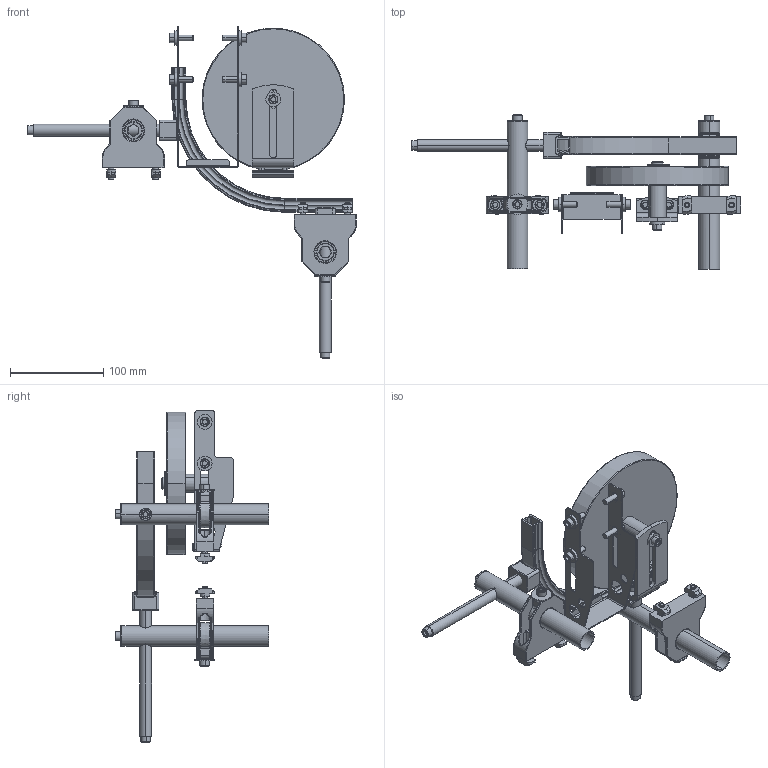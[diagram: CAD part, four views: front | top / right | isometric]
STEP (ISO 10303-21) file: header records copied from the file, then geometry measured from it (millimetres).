
FILE_DESCRIPTION (( 'STEP AP203' ), '1' );
FILE_NAME ('206524-02.STEP', '2018-04-12T18:34:06', ( '' ), ( '' ), 'SwSTEP 2.0', 'SolidWorks 2017', '' );
FILE_SCHEMA (( 'CONFIG_CONTROL_DESIGN' ));
Length unit declared in the file: inch
Products named in the file (28): 206382_206382_DRAFTS; 206385_0.875OD; 206380; 200830M; 234005M; 234007M; 206524-02; 9206XXM_9206150M; 9206XXM_920620M; 911-709_91090A107; 234003M; 9206XXM_920616M; 207138-WW_2; 206386; 9206XXM_920614M; 206397_206397; 807-2859_91760A321; 206381_206381; 990601M; 206685; X26235_206686-1; 915-218; 807-920; 207125-WW_207125-02; 605279P; 234006; X26235_206686-2; 206383_206383
Assembly tree (60 placements, depth 3):
  206524-02
    234006
    9206XXM_920616M
    9206XXM_920614M  x2
    200830M
    234007M
    605279P  x5
    234003M
    915-218
    234005M
    207125-WW_207125-02
    207138-WW_2
    X26235_206686-2
      206380
      206381_206381
      206385_0.875OD
      206382_206382_DRAFTS
      206383_206383
      206397_206397
      911-709_91090A107  x2
      9206XXM_920614M  x2
      206685  x2
      807-920  x2
      990601M
      206386
      9206XXM_9206150M
      807-2859_91760A321  x2
    X26235_206686-1
      206380
      206381_206381
      206385_0.875OD
      206382_206382_DRAFTS
      206383_206383
      206397_206397
      911-709_91090A107  x2
      9206XXM_920614M  x2
      206685  x2
      807-920  x2
      990601M
      206386
      9206XXM_9206150M
      807-2859_91760A321  x2
    9206XXM_920620M  x4
Bounding box: 352.06 x 164.65 x 355.22 mm (x, y, z)
Volume: 619031.1 mm3; surface area: 265706.9 mm2
Topology: 58 solids, 58 shells, 2128 faces, 4879 edges, 2844 vertices
Faces by surface type: cylinder 734, plane 620, cone 350, bspline 198, torus 178, sphere 48
Entity records: 39857 total; most frequent: CARTESIAN_POINT 12037, DIRECTION 5149, ORIENTED_EDGE 4962, EDGE_CURVE 2481, AXIS2_PLACEMENT_3D 2026, VERTEX_POINT 1469, EDGE_LOOP 1150, LINE 1097
